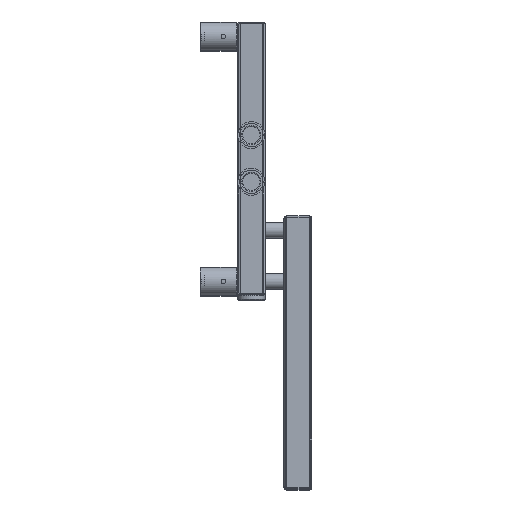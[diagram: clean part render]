
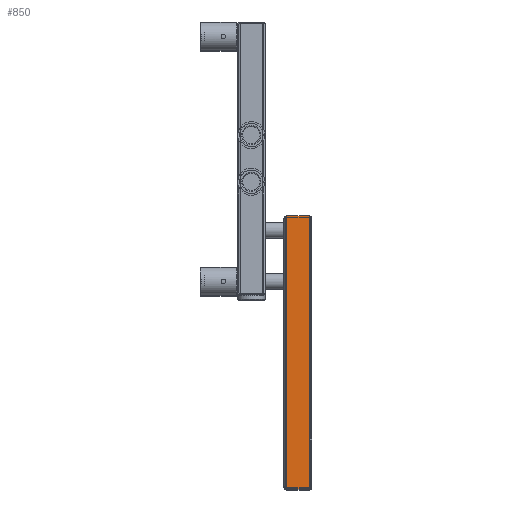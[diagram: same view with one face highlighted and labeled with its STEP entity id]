
A CAD part, top view. The second image highlights one B-rep face of the part: STEP entity #850.
In plain terms, the highlighted planar face has unit normal (0, 0, 1) as drawn and (0, -1, 0) by its records, which use the part's own axes.
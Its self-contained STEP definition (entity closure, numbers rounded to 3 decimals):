
#850 = ADVANCED_FACE( '', ( #1802 ), #1803, .T. );
#1802 = FACE_OUTER_BOUND( '', #3033, .T. );
#1803 = PLANE( '', #3034 );
#3033 = EDGE_LOOP( '', ( #4899, #4900, #4901, #4902 ) );
#3034 = AXIS2_PLACEMENT_3D( '', #4903, #4904, #4905 );
#4899 = ORIENTED_EDGE( '', *, *, #7060, .T. );
#4900 = ORIENTED_EDGE( '', *, *, #6633, .T. );
#4901 = ORIENTED_EDGE( '', *, *, #6949, .F. );
#4902 = ORIENTED_EDGE( '', *, *, #7061, .T. );
#4903 = CARTESIAN_POINT( '', ( 15., -15., 292.5 ) );
#4904 = DIRECTION( '', ( 0., -1., 0. ) );
#4905 = DIRECTION( '', ( 1., 0., 0. ) );
#6633 = EDGE_CURVE( '', #7811, #7809, #7812, .T. );
#6949 = EDGE_CURVE( '', #8329, #7809, #8330, .T. );
#7060 = EDGE_CURVE( '', #8492, #7811, #8493, .T. );
#7061 = EDGE_CURVE( '', #8329, #8492, #8494, .F. );
#7809 = VERTEX_POINT( '', #9495 );
#7811 = VERTEX_POINT( '', #9497 );
#7812 = LINE( '', #9498, #9499 );
#8329 = VERTEX_POINT( '', #10169 );
#8330 = LINE( '', #10170, #10171 );
#8492 = VERTEX_POINT( '', #10407 );
#8493 = LINE( '', #10408, #10409 );
#8494 = LINE( '', #10410, #10411 );
#9495 = CARTESIAN_POINT( '', ( -12., -15., 0. ) );
#9497 = CARTESIAN_POINT( '', ( -12., -15., 292.5 ) );
#9498 = CARTESIAN_POINT( '', ( -12., -15., 292.5 ) );
#9499 = VECTOR( '', #11407, 1000. );
#10169 = CARTESIAN_POINT( '', ( 12., -15., 0. ) );
#10170 = CARTESIAN_POINT( '', ( 15., -15., 0. ) );
#10171 = VECTOR( '', #11873, 1000. );
#10407 = CARTESIAN_POINT( '', ( 12., -15., 292.5 ) );
#10408 = CARTESIAN_POINT( '', ( 15., -15., 292.5 ) );
#10409 = VECTOR( '', #12035, 1000. );
#10410 = CARTESIAN_POINT( '', ( 12., -15., 292.5 ) );
#10411 = VECTOR( '', #12036, 1000. );
#11407 = DIRECTION( '', ( 0., 0., -1. ) );
#11873 = DIRECTION( '', ( -1., 0., 0. ) );
#12035 = DIRECTION( '', ( -1., 0., 0. ) );
#12036 = DIRECTION( '', ( 0., 0., -1. ) );
